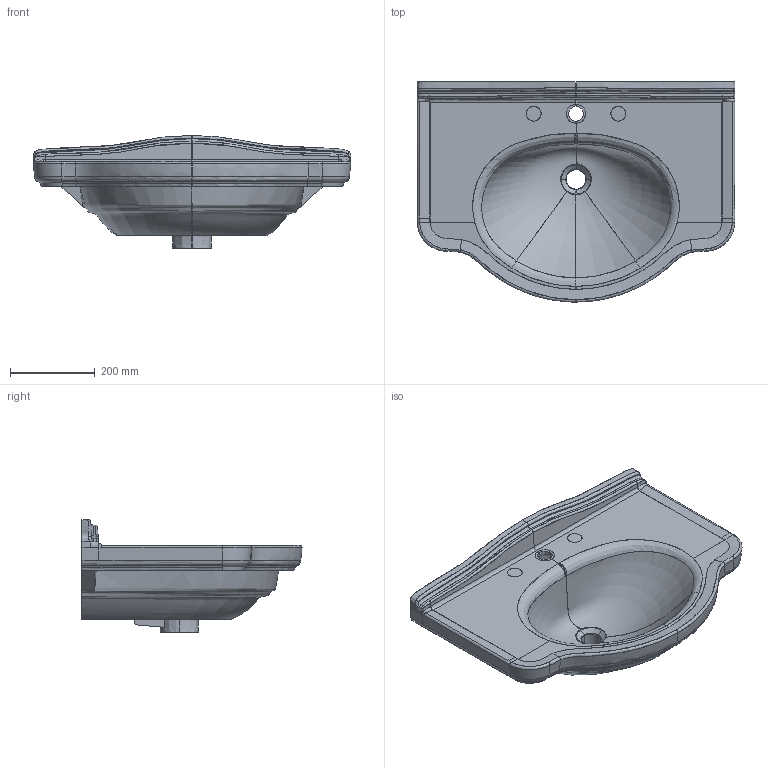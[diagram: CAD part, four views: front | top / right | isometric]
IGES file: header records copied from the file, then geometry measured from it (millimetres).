
Start section: START RECORD GO HERE.
Global section: file name: 8433M_lavabo Ethos 75.igs; native system: DASSAULT SYSTEMES CATIA V5 R19 - www.3ds.com; preprocessor: CATIA Version 5 Release 19 SP 5 ; author: gioge; organization: LAPTOP-G94B6G74; date: 20200630.150212; units: millimetre
Bounding box: 750.68 x 519.96 x 266.39 mm (x, y, z)
Surface area: 1213855 mm2 (no closed solid volume)
Topology: 0 solids, 0 shells, 595 faces, 3060 edges, 2960 vertices
Faces by surface type: bspline 316, revolution 223, plane 52, extrusion 4
